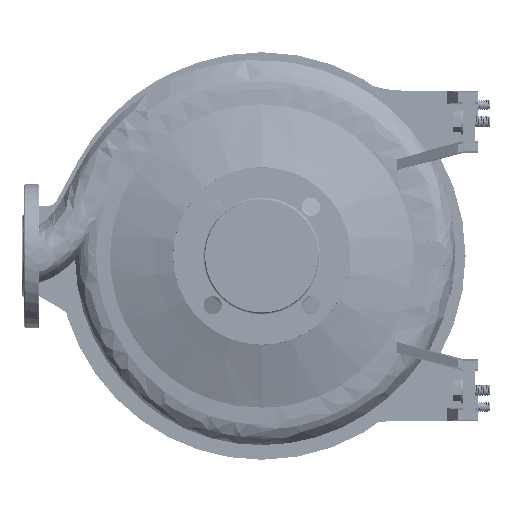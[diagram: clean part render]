
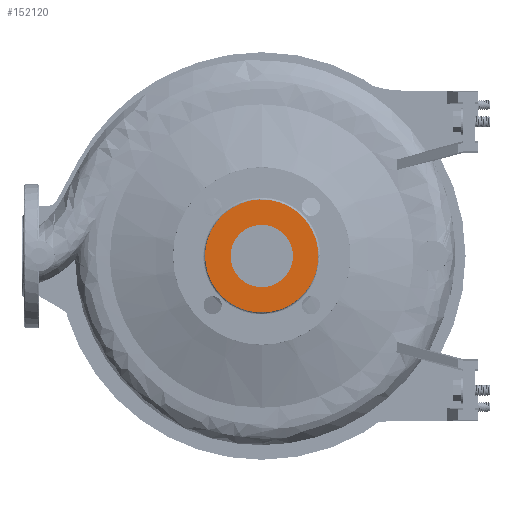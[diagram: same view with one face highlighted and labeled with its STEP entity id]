
A CAD part, left-side view. The second image highlights one B-rep face of the part: STEP entity #152120.
In plain terms, the highlighted planar face has unit normal (-1, 0, 0).
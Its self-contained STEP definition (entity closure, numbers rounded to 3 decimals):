
#5604 = ORIENTED_EDGE ( 'NONE', *, *, #146429, .T. ) ;
#6644 =( BOUNDED_CURVE ( )  B_SPLINE_CURVE ( 3, ( #145683, #188807, #117827, #176304 ),
 .UNSPECIFIED., .F., .F. ) 
 B_SPLINE_CURVE_WITH_KNOTS ( ( 4, 4 ),
 ( 0., 0.186 ),
 .UNSPECIFIED. ) 
 CURVE ( )  GEOMETRIC_REPRESENTATION_ITEM ( )  RATIONAL_B_SPLINE_CURVE ( ( 0.957, 0.319, 0.319, 0.957 ) ) 
 REPRESENTATION_ITEM ( '' )  );
#11804 = CARTESIAN_POINT ( 'NONE',  ( -125., 0., 32.5 ) ) ;
#14396 =( BOUNDED_CURVE ( )  B_SPLINE_CURVE ( 3, ( #51777, #168736, #22991, #26771 ),
 .UNSPECIFIED., .F., .F. ) 
 B_SPLINE_CURVE_WITH_KNOTS ( ( 4, 4 ),
 ( 0., 0.186 ),
 .UNSPECIFIED. ) 
 CURVE ( )  GEOMETRIC_REPRESENTATION_ITEM ( )  RATIONAL_B_SPLINE_CURVE ( ( 0.957, 0.319, 0.319, 0.957 ) ) 
 REPRESENTATION_ITEM ( '' )  );
#18893 = DIRECTION ( 'NONE',  ( 0., 0., 1. ) ) ;
#21998 = VERTEX_POINT ( 'NONE', #116163 ) ;
#22991 = CARTESIAN_POINT ( 'NONE',  ( -125., -59., -118. ) ) ;
#25457 = ORIENTED_EDGE ( 'NONE', *, *, #49912, .T. ) ;
#26771 = CARTESIAN_POINT ( 'NONE',  ( -125., -59., 0. ) ) ;
#30849 = EDGE_LOOP ( 'NONE', ( #60761, #54051 ) ) ;
#33169 = VERTEX_POINT ( 'NONE', #11804 ) ;
#34237 = CARTESIAN_POINT ( 'NONE',  ( -125., 0., 0. ) ) ;
#39252 = DIRECTION ( 'NONE',  ( 0., 0., 1. ) ) ;
#39860 = AXIS2_PLACEMENT_3D ( 'NONE', #170647, #84344, #39252 ) ;
#47809 = CARTESIAN_POINT ( 'NONE',  ( -125., -59., 0. ) ) ;
#49912 = EDGE_CURVE ( 'NONE', #33169, #170565, #174595, .T. ) ;
#50048 = VERTEX_POINT ( 'NONE', #47809 ) ;
#51777 = CARTESIAN_POINT ( 'NONE',  ( -125., 59., 0. ) ) ;
#52814 = DIRECTION ( 'NONE',  ( -1., 0., 0. ) ) ;
#54051 = ORIENTED_EDGE ( 'NONE', *, *, #181021, .T. ) ;
#60761 = ORIENTED_EDGE ( 'NONE', *, *, #62946, .T. ) ;
#62946 = EDGE_CURVE ( 'NONE', #50048, #21998, #6644, .T. ) ;
#67183 = CARTESIAN_POINT ( 'NONE',  ( -125., 59.708, -59.708 ) ) ;
#79673 = PLANE ( 'NONE',  #152874 ) ;
#80634 = FACE_OUTER_BOUND ( 'NONE', #30849, .T. ) ;
#84344 = DIRECTION ( 'NONE',  ( 1., 0., 0. ) ) ;
#89920 = DIRECTION ( 'NONE',  ( 1., 0., 0. ) ) ;
#110772 = CIRCLE ( 'NONE', #144485, 32.5 ) ;
#116163 = CARTESIAN_POINT ( 'NONE',  ( -125., 59., 0. ) ) ;
#117827 = CARTESIAN_POINT ( 'NONE',  ( -125., 59., 118. ) ) ;
#122860 = FACE_BOUND ( 'NONE', #160038, .T. ) ;
#144485 = AXIS2_PLACEMENT_3D ( 'NONE', #34237, #89920, #18893 ) ;
#145683 = CARTESIAN_POINT ( 'NONE',  ( -125., -59., 0. ) ) ;
#146429 = EDGE_CURVE ( 'NONE', #170565, #33169, #110772, .T. ) ;
#152120 = ADVANCED_FACE ( 'NONE', ( #122860, #80634 ), #79673, .T. ) ;
#152874 = AXIS2_PLACEMENT_3D ( 'NONE', #67183, #52814, #165049 ) ;
#160038 = EDGE_LOOP ( 'NONE', ( #25457, #5604 ) ) ;
#161620 = CARTESIAN_POINT ( 'NONE',  ( -125., 0., -32.5 ) ) ;
#165049 = DIRECTION ( 'NONE',  ( 0., -1., 0. ) ) ;
#168736 = CARTESIAN_POINT ( 'NONE',  ( -125., 59., -118. ) ) ;
#170565 = VERTEX_POINT ( 'NONE', #161620 ) ;
#170647 = CARTESIAN_POINT ( 'NONE',  ( -125., 0., 0. ) ) ;
#174595 = CIRCLE ( 'NONE', #39860, 32.5 ) ;
#176304 = CARTESIAN_POINT ( 'NONE',  ( -125., 59., 0. ) ) ;
#181021 = EDGE_CURVE ( 'NONE', #21998, #50048, #14396, .T. ) ;
#188807 = CARTESIAN_POINT ( 'NONE',  ( -125., -59., 118. ) ) ;
